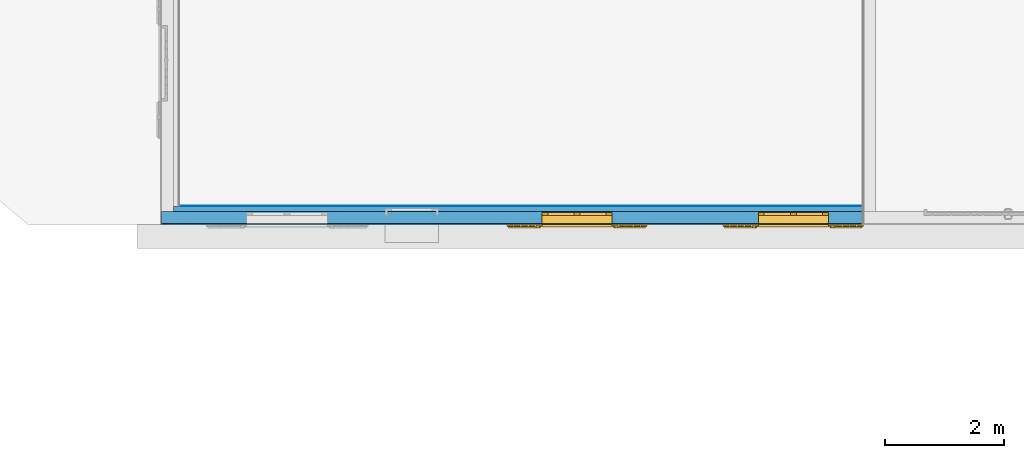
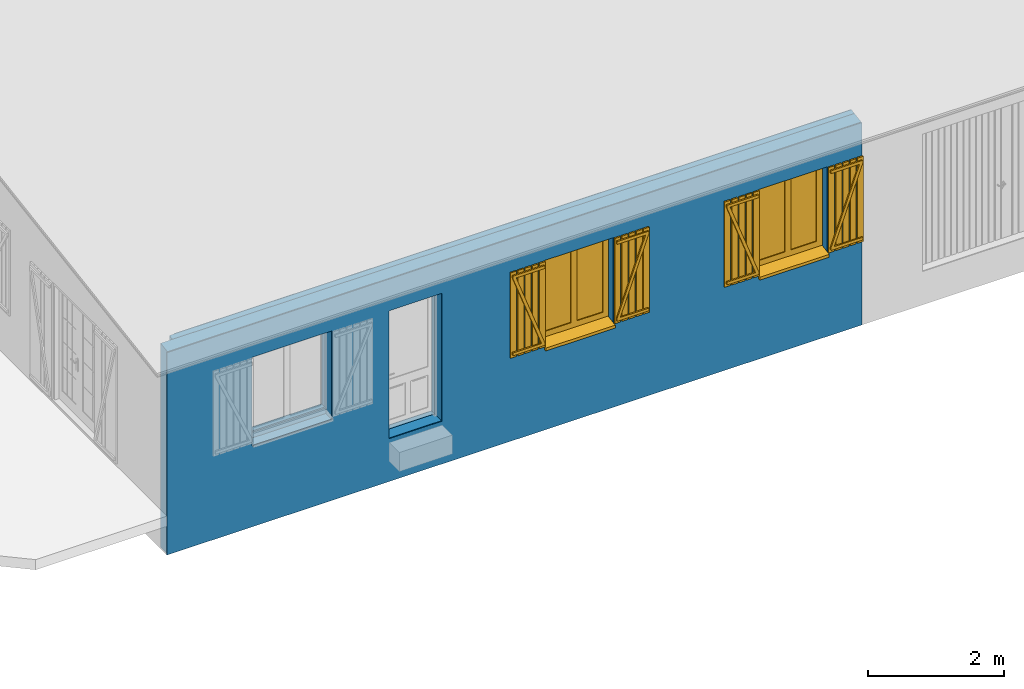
# One storey, part 4 of 12: 4 building element parts, 2 windows, 4 openings, 1 element without a shape of its own.
"""IFC2X3 building model written with IfcOpenShell, lengths in metres."""

import ifcopenshell
import ifcopenshell.guid

model = None  # the IFC model being written
_history = None  # IfcOwnerHistory: only IFC2X3 demands one
_inside = {}  # id of a spatial element -> (the spatial element, [elements in it])
_under = {}  # id of a project, library or spatial element -> (it, [spatial elements below it])
_declared = {}  # id of a project -> (the project, [libraries it declares])
_typed = {}  # id of a type object -> (the type object, [elements of that type])
_made_of = {}  # id of a material, layer set ... -> (it, [elements and type objects made of it])


def new_model(schema):
    """Start an empty IFC model of exactly this schema.

    Asked for "IFC4X3", IfcOpenShell would pick the latest addendum, in which some entities
    have other attributes; the version numbers below select the first issue.
    IFC2X3 requires an IfcOwnerHistory on every rooted entity: one is made here for all.
    """
    global model, _history
    if schema == "IFC4X3":
        model = ifcopenshell.file(schema_version=(4, 3, 0, 0))
    else:
        model = ifcopenshell.file(schema=schema)
    _inside.clear()
    _under.clear()
    _declared.clear()
    _typed.clear()
    _made_of.clear()
    _history = None
    if model.schema == "IFC2X3":
        org = make("IfcOrganization", Name="unknown")
        user = make(
            "IfcPersonAndOrganization",
            ThePerson=make("IfcPerson", FamilyName="unknown"),
            TheOrganization=org,
        )
        app = make(
            "IfcApplication",
            ApplicationDeveloper=org,
            Version="unknown",
            ApplicationFullName="unknown",
            ApplicationIdentifier="unknown",
        )
        _history = make(
            "IfcOwnerHistory",
            OwningUser=user,
            OwningApplication=app,
            ChangeAction="ADDED",
            CreationDate=0,
        )
    return model


def make(cls, **values):
    """One entity of the class cls with the attributes given. An attribute that is None is left unset."""
    return model.create_entity(
        cls, **{name: value for name, value in values.items() if value is not None}
    )


def entity(cls, *values):
    """Any entity or typed value of the class cls, its attributes in the order of the schema. None: left unset."""
    e = model.create_entity(cls)
    for i, value in enumerate(values):
        if value is not None:
            e[i] = value
    return e


def rooted(cls, **values):
    """An entity with a GlobalId (a new one), such as an element, a storey or a relation."""
    return make(cls, GlobalId=ifcopenshell.guid.new(), OwnerHistory=_history, **values)


def si_unit(unit_type, name, prefix=None):
    """IfcSIUnit, for example si_unit("LENGTHUNIT", "METRE", prefix="MILLI")."""
    return make("IfcSIUnit", UnitType=unit_type, Prefix=prefix, Name=name)


def converted_unit(unit_type, name, factor, base, dimensions=None, offset=None):
    """IfcConversionBasedUnit, such as the inch: factor (a typed value) times the base unit."""
    return make(
        "IfcConversionBasedUnit"
        if offset is None
        else "IfcConversionBasedUnitWithOffset",
        ConversionOffset=offset,
        Dimensions=None
        if dimensions is None
        else entity("IfcDimensionalExponents", *dimensions),
        UnitType=unit_type,
        Name=name,
        ConversionFactor=make(
            "IfcMeasureWithUnit", ValueComponent=factor, UnitComponent=base
        ),
    )


def derived_unit(unit_type, elements):
    """IfcDerivedUnit: a product of units, each with its exponent."""
    return make(
        "IfcDerivedUnit",
        Elements=[
            make("IfcDerivedUnitElement", Unit=unit, Exponent=power)
            for unit, power in elements
        ],
        UnitType=unit_type,
    )


def money_unit(currency):
    """IfcMonetaryUnit."""
    return make("IfcMonetaryUnit", Currency=currency)


def assignment(units):
    """IfcUnitAssignment: the units of a project."""
    return None if units is None else make("IfcUnitAssignment", Units=units)


def point(xyz):
    """IfcCartesianPoint."""
    return None if xyz is None else make("IfcCartesianPoint", Coordinates=xyz)


def direction(xyz):
    """IfcDirection."""
    return None if xyz is None else make("IfcDirection", DirectionRatios=xyz)


def frame(location, z_axis=None, x_axis=None):
    """IfcAxis2Placement3D, a coordinate frame: its origin and axes. An axis left out is left unset."""
    return make(
        "IfcAxis2Placement3D",
        Location=point(location),
        Axis=direction(z_axis),
        RefDirection=direction(x_axis),
    )


def frame_2d(location, x_axis=None):
    """IfcAxis2Placement2D, a coordinate frame in the plane: its origin and x axis."""
    return make(
        "IfcAxis2Placement2D", Location=point(location), RefDirection=direction(x_axis)
    )


def origin_with_axes():
    """The frame at (0, 0, 0) with the z axis (0, 0, 1) and the x axis (1, 0, 0) written out."""
    return frame((0.0, 0.0, 0.0), z_axis=(0.0, 0.0, 1.0), x_axis=(1.0, 0.0, 0.0))


def origin_2d_with_axis():
    """The frame at (0, 0) in the plane with the x axis (1, 0) written out."""
    return frame_2d((0.0, 0.0), x_axis=(1.0, 0.0))


def place(relative_to, where):
    """IfcLocalPlacement: puts the frame where relative to a parent placement (None: the world)."""
    return make(
        "IfcLocalPlacement", PlacementRelTo=relative_to, RelativePlacement=where
    )


def context(
    kind, dimensions, precision=None, world=None, true_north=None, identifier=None
):
    """IfcGeometricRepresentationContext, for example the 3D "Model" context."""
    return make(
        "IfcGeometricRepresentationContext",
        ContextIdentifier=identifier,
        ContextType=kind,
        CoordinateSpaceDimension=dimensions,
        Precision=precision,
        WorldCoordinateSystem=world,
        TrueNorth=true_north,
    )


def subcontext(parent, identifier, kind, view, scale=None):
    """IfcGeometricRepresentationSubContext, for example "Body" below "Model"."""
    return make(
        "IfcGeometricRepresentationSubContext",
        ContextIdentifier=identifier,
        ContextType=kind,
        ParentContext=parent,
        TargetScale=scale,
        TargetView=view,
    )


def project(units=None, contexts=None):
    """IfcProject with its units and contexts."""
    return rooted(
        "IfcProject",
        Name="project",
        RepresentationContexts=contexts,
        UnitsInContext=assignment(units),
    )


def spatial(cls, under=None, at=None, **own):
    """A site, building, storey or space (cls), placed at a placement, below another one or the project."""
    s = rooted(cls, ObjectPlacement=at, **own)
    if under is not None:
        _under.setdefault(under.id(), (under, []))[1].append(s)
    return s


def polyline(points):
    """IfcPolyline through the points."""
    return make("IfcPolyline", Points=[point(p) for p in points])


def profile(cls, at=None, kind="AREA", **sizes):
    """A parametric profile (cls). Its sizes go by their IFC names, for example OverallWidth=200.0."""
    return make(cls, ProfileType=kind, Position=at, **sizes)


def rectangle(**sizes):
    """IfcRectangleProfileDef."""
    return profile("IfcRectangleProfileDef", **sizes)


def outline(outer, holes=None, kind="AREA"):
    """IfcArbitraryClosedProfileDef: a profile drawn as a closed curve; with holes, ...WithVoids."""
    if holes is None:
        return make("IfcArbitraryClosedProfileDef", ProfileType=kind, OuterCurve=outer)
    return make(
        "IfcArbitraryProfileDefWithVoids",
        ProfileType=kind,
        OuterCurve=outer,
        InnerCurves=holes,
    )


def extrude(swept, where, along, depth):
    """IfcExtrudedAreaSolid: the profile swept, set in the frame where, extruded along a direction by depth."""
    return make(
        "IfcExtrudedAreaSolid",
        SweptArea=swept,
        Position=where,
        ExtrudedDirection=direction(along),
        Depth=depth,
    )


def boolean(op, a, b):
    """IfcBooleanResult of two solids."""
    return make("IfcBooleanResult", Operator=op, FirstOperand=a, SecondOperand=b)


def faces_of(points, faces, orient=None, outer=None):
    """IfcFace entities. A face is a list of loops; a loop is a list of indices into points, from 0.

    orient and outer hold one flag for each loop. By default every Orientation is true, the
    first loop of a face is its IfcFaceOuterBound and the others are IfcFaceBound.
    """
    made = []
    for i, loops in enumerate(faces):
        bounds = []
        for j, loop in enumerate(loops):
            is_outer = j == 0 if outer is None else outer[i][j]
            bounds.append(
                make(
                    "IfcFaceOuterBound" if is_outer else "IfcFaceBound",
                    Bound=make("IfcPolyLoop", Polygon=[points[k] for k in loop]),
                    Orientation=True if orient is None else orient[i][j],
                )
            )
        made.append(make("IfcFace", Bounds=bounds))
    return made


def open_shell(faces, orient=None, outer=None):
    """The faces of one IfcOpenShell. surface_model builds it on its shared points."""
    return ("IfcOpenShell", faces, orient, outer)


def faceted_brep(points, faces, orient=None, outer=None, voids=None):
    """IfcFacetedBrep: a solid bounded by flat faces; with voids (closed shells), ...WithVoids."""
    shared = [point(p) for p in points]
    hull = make("IfcClosedShell", CfsFaces=faces_of(shared, faces, orient, outer))
    if voids is None:
        return make("IfcFacetedBrep", Outer=hull)
    return make(
        "IfcFacetedBrepWithVoids",
        Outer=hull,
        Voids=[
            make(cls, CfsFaces=faces_of(shared, fs, o, b)) for cls, fs, o, b in voids
        ],
    )


def surface_model(cls, points, shells):
    """IfcFaceBasedSurfaceModel or IfcShellBasedSurfaceModel (cls): surfaces that need not close."""
    shared = [point(p) for p in points]
    made = [make(c, CfsFaces=faces_of(shared, fs, o, b)) for c, fs, o, b in shells]
    if cls == "IfcFaceBasedSurfaceModel":
        return make(cls, FbsmFaces=made)
    return make(cls, SbsmBoundary=made)


def shape(context_of_items, identifier, shape_type, items):
    """IfcShapeRepresentation: the items that make up one representation, for example the "Body"."""
    return make(
        "IfcShapeRepresentation",
        ContextOfItems=context_of_items,
        RepresentationIdentifier=identifier,
        RepresentationType=shape_type,
        Items=items,
    )


def source(mapping_origin, context_of_items, identifier, shape_type, items):
    """IfcRepresentationMap: a shape defined once, which mapped items show again and again."""
    return make(
        "IfcRepresentationMap",
        MappingOrigin=mapping_origin,
        MappedRepresentation=shape(context_of_items, identifier, shape_type, items),
    )


def transform(
    local_origin,
    x_axis=None,
    y_axis=None,
    z_axis=None,
    scale=None,
    scale2=None,
    scale3=None,
    uniform=True,
):
    """IfcCartesianTransformationOperator3D, or its non-uniform kind. x_axis, y_axis, z_axis: its Axis1, 2, 3."""
    if uniform:
        return make(
            "IfcCartesianTransformationOperator3D",
            Axis1=direction(x_axis),
            Axis2=direction(y_axis),
            LocalOrigin=point(local_origin),
            Scale=scale,
            Axis3=direction(z_axis),
        )
    return make(
        "IfcCartesianTransformationOperator3DnonUniform",
        Axis1=direction(x_axis),
        Axis2=direction(y_axis),
        LocalOrigin=point(local_origin),
        Scale=scale,
        Axis3=direction(z_axis),
        Scale2=scale2,
        Scale3=scale3,
    )


def mapped(mapping_source, mapping_target):
    """IfcMappedItem: shows the shape of a source again, moved by a transform."""
    return make(
        "IfcMappedItem", MappingSource=mapping_source, MappingTarget=mapping_target
    )


def material(Name=None, Category=None):
    """IfcMaterial."""
    return make("IfcMaterial", Name=Name, Category=Category)


def made_of(thing, what):
    """Note that an element or type object is made of a material, layer set ...; save() writes the relation."""
    if what is not None:
        _made_of.setdefault(what.id(), (what, []))[1].append(thing)
    return thing


def type_object(cls, material=None, **own):
    """A type object (cls), such as IfcWallType, which elements share."""
    return made_of(rooted(cls, **own), material)


def element(
    cls,
    number,
    at=None,
    inside=None,
    cuts=None,
    type_object=None,
    material=None,
    context=None,
    identifier="Body",
    shape_type=None,
    held_by="IfcProductDefinitionShape",
    body=None,
    shapes=None,
    **own,
):
    """One element of the class cls, such as IfcWall. Its Tag is "e" and its number.

    at: its placement. inside: the storey or other place that contains it. cuts: it is an
    opening in that element (IfcRelVoidsElement). A single representation is given by context,
    identifier, shape_type and body (its items); several are given by shapes. held_by: the class
    of the entity that holds the representations. save() writes the other relations.
    """
    e = rooted(cls, Tag="e%d" % number, ObjectPlacement=at, **own)
    if body is not None:
        shapes = [shape(context, identifier, shape_type, body)]
    if shapes is not None:
        e.Representation = make(held_by, Representations=shapes)
    if inside is not None:
        _inside.setdefault(inside.id(), (inside, []))[1].append(e)
    if cuts is not None:
        rooted(
            "IfcRelVoidsElement", RelatingBuildingElement=cuts, RelatedOpeningElement=e
        )
    if type_object is not None:
        _typed.setdefault(type_object.id(), (type_object, []))[1].append(e)
    return made_of(e, material)


def fill(opening, filler):
    """IfcRelFillsElement: the door or window that sits in an opening."""
    return rooted(
        "IfcRelFillsElement",
        RelatingOpeningElement=opening,
        RelatedBuildingElement=filler,
    )


def aggregate(whole, parts):
    """IfcRelAggregates: a whole, such as a stair, and the parts it consists of."""
    return rooted("IfcRelAggregates", RelatingObject=whole, RelatedObjects=parts)


def save(model, path):
    """Write the relations noted so far, then the file.

    IfcRelAggregates (storeys below a building ...), IfcRelContainedInSpatialStructure (elements
    in a storey), IfcRelDefinesByType, IfcRelAssociatesMaterial and IfcRelDeclares: one each for
    every whole, place, type object, material and project.
    """
    for whole, parts in _under.values():
        aggregate(whole, parts)
    for where, things in _inside.values():
        rooted(
            "IfcRelContainedInSpatialStructure",
            RelatedElements=things,
            RelatingStructure=where,
        )
    for kind, things in _typed.values():
        rooted("IfcRelDefinesByType", RelatedObjects=things, RelatingType=kind)
    for what, things in _made_of.values():
        rooted("IfcRelAssociatesMaterial", RelatedObjects=things, RelatingMaterial=what)
    for by, libraries in _declared.values():
        rooted("IfcRelDeclares", RelatingContext=by, RelatedDefinitions=libraries)
    model.write(path)


model = new_model("IFC2X3")

# Units and contexts
model_context = context("Model", 3, precision=1e-05, world=origin_with_axes(), true_north=direction((0.0, 1.0)))
body_context = subcontext(model_context, "Body", "Model", "MODEL_VIEW")
ifc_project = project(units=[si_unit("LENGTHUNIT", "METRE"), si_unit("AREAUNIT", "SQUARE_METRE"), si_unit("VOLUMEUNIT", "CUBIC_METRE"), converted_unit("PLANEANGLEUNIT", "DEGREE", entity("IfcPlaneAngleMeasure", 0.0174532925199), si_unit("PLANEANGLEUNIT", "RADIAN"), dimensions=[0, 0, 0, 0, 0, 0, 0]), si_unit("SOLIDANGLEUNIT", "STERADIAN"), money_unit("CHF"), converted_unit("TIMEUNIT", "Year", entity("IfcTimeMeasure", 31556926.0), si_unit("TIMEUNIT", "SECOND"), dimensions=[0, 0, 1, 0, 0, 0, 0]), si_unit("MASSUNIT", "GRAM", prefix="KILO"), si_unit("THERMODYNAMICTEMPERATUREUNIT", "DEGREE_CELSIUS"), si_unit("LUMINOUSINTENSITYUNIT", "LUMEN"), si_unit("ENERGYUNIT", "JOULE", prefix="MEGA"), derived_unit("THERMALCONDUCTANCEUNIT", [(si_unit("POWERUNIT", "WATT"), 1), (si_unit("LENGTHUNIT", "METRE"), -1), (si_unit("THERMODYNAMICTEMPERATUREUNIT", "KELVIN"), -1)]), derived_unit("SPECIFICHEATCAPACITYUNIT", [(si_unit("ENERGYUNIT", "JOULE"), 1), (si_unit("MASSUNIT", "GRAM", prefix="KILO"), -1), (si_unit("THERMODYNAMICTEMPERATUREUNIT", "KELVIN"), -1)]), derived_unit("MASSDENSITYUNIT", [(si_unit("MASSUNIT", "GRAM", prefix="KILO"), 1), (si_unit("VOLUMEUNIT", "CUBIC_METRE"), -1)])], contexts=[model_context])

# Site, building, storey
site_placement = place(None, origin_with_axes())
site = spatial("IfcSite", under=ifc_project, at=site_placement, Name="Site", CompositionType="ELEMENT")
building_placement = place(site_placement, origin_with_axes())
building = spatial("IfcBuilding", under=site, at=building_placement, Name="Bâtiment", CompositionType="ELEMENT")
storey_placement = place(building_placement, origin_with_axes())
storey = spatial("IfcBuildingStorey", under=building, at=storey_placement, Name="Rez-de-chaussée", CompositionType="ELEMENT", Elevation=0.0)

# Window
window_style = type_object("IfcWindowStyle", Name="Fenêtre horizontale à châssis multiples 24", ConstructionType="NOTDEFINED", OperationType="DOUBLE_PANEL_VERTICAL", ParameterTakesPrecedence=False, Sizeable=False)
shared_shape = source(origin_with_axes(), body_context, "Body", "SurfaceModel", [
    faceted_brep([(0.59, -0.015, 0.0), (-0.59, -0.015, 0.0), (-0.59, -0.025, 0.0), (0.59, -0.025, 0.0), (0.59, -0.015, -0.1), (-0.59, -0.015, -0.1), (-0.59, -0.245, -0.1), (-0.59, -0.245, -0.0487919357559), (-0.59, -0.025, -0.01), (0.59, -0.025, -0.01), (0.59, -0.245, -0.0487919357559), (0.59, -0.245, -0.1)], [[[0, 1, 2, 3]], [[4, 5, 1, 0]], [[1, 5, 6, 7, 8, 2]], [[3, 2, 8, 9]], [[0, 3, 9, 10, 11, 4]], [[11, 6, 5, 4]], [[10, 7, 6, 11]], [[9, 8, 7, 10]]]),
    faceted_brep([(0.59, -0.206, -0.0326204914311), (0.69, -0.206, -0.0326204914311), (0.69, -0.231, -0.0326204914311), (0.59, -0.231, -0.0326204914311), (0.59, -0.206, 1.5), (0.69, -0.206, 1.5), (0.69, -0.231, 1.5), (0.59, -0.231, 1.5)], [[[0, 1, 2, 3]], [[0, 4, 5, 1]], [[1, 5, 6, 2]], [[3, 2, 6, 7]], [[4, 0, 3, 7]], [[5, 4, 7, 6]]]),
    faceted_brep([(0.7125, -0.206, -0.0326204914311), (0.8125, -0.206, -0.0326204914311), (0.8125, -0.231, -0.0326204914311), (0.7125, -0.231, -0.0326204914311), (0.7125, -0.206, 1.5), (0.8125, -0.206, 1.5), (0.8125, -0.231, 1.5), (0.7125, -0.231, 1.5)], [[[0, 1, 2, 3]], [[0, 4, 5, 1]], [[1, 5, 6, 2]], [[3, 2, 6, 7]], [[4, 0, 3, 7]], [[5, 4, 7, 6]]]),
    faceted_brep([(0.835, -0.206, -0.0326204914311), (0.935, -0.206, -0.0326204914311), (0.935, -0.231, -0.0326204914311), (0.835, -0.231, -0.0326204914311), (0.835, -0.206, 1.5), (0.935, -0.206, 1.5), (0.935, -0.231, 1.5), (0.835, -0.231, 1.5)], [[[0, 1, 2, 3]], [[0, 4, 5, 1]], [[1, 5, 6, 2]], [[3, 2, 6, 7]], [[4, 0, 3, 7]], [[5, 4, 7, 6]]]),
    faceted_brep([(0.9575, -0.206, -0.0326204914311), (1.0575, -0.206, -0.0326204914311), (1.0575, -0.231, -0.0326204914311), (0.9575, -0.231, -0.0326204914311), (0.9575, -0.206, 1.5), (1.0575, -0.206, 1.5), (1.0575, -0.231, 1.5), (0.9575, -0.231, 1.5)], [[[0, 1, 2, 3]], [[0, 4, 5, 1]], [[1, 5, 6, 2]], [[3, 2, 6, 7]], [[4, 0, 3, 7]], [[5, 4, 7, 6]]]),
    faceted_brep([(1.08, -0.206, -0.0326204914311), (1.18, -0.206, -0.0326204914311), (1.18, -0.231, -0.0326204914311), (1.08, -0.231, -0.0326204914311), (1.08, -0.206, 1.5), (1.18, -0.206, 1.5), (1.18, -0.231, 1.5), (1.08, -0.231, 1.5)], [[[0, 1, 2, 3]], [[0, 4, 5, 1]], [[1, 5, 6, 2]], [[3, 2, 6, 7]], [[4, 0, 3, 7]], [[5, 4, 7, 6]]]),
    faceted_brep([(0.615, -0.231, 0.0173795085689), (1.155, -0.231, 0.0173795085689), (1.155, -0.256, 0.0173795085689), (0.615, -0.256, 0.0173795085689), (0.615, -0.231, 0.0673795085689), (1.155, -0.231, 0.0673795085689), (1.155, -0.256, 0.0673795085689), (0.615, -0.256, 0.0673795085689)], [[[0, 1, 2, 3]], [[0, 4, 5, 1]], [[1, 5, 6, 2]], [[3, 2, 6, 7]], [[4, 0, 3, 7]], [[5, 4, 7, 6]]]),
    faceted_brep([(0.615, -0.231, 1.45), (0.615, -0.231, 1.4), (0.615, -0.256, 1.4), (0.615, -0.256, 1.45), (1.155, -0.231, 1.45), (1.155, -0.231, 1.4), (1.155, -0.256, 1.4), (1.155, -0.256, 1.45)], [[[0, 1, 2, 3]], [[0, 4, 5, 1]], [[1, 5, 6, 2]], [[3, 2, 6, 7]], [[4, 0, 3, 7]], [[5, 4, 7, 6]]]),
    faceted_brep([(0.615, -0.231, 0.0673795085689), (0.668231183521, -0.231, 0.0673795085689), (0.668231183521, -0.256, 0.0673795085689), (0.615, -0.256, 0.0673795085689), (1.10176881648, -0.231, 1.4), (1.155, -0.231, 1.4), (1.155, -0.256, 1.4), (1.10176881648, -0.256, 1.4)], [[[0, 1, 2, 3]], [[0, 4, 5, 1]], [[1, 5, 6, 2]], [[3, 2, 6, 7]], [[4, 0, 3, 7]], [[5, 4, 7, 6]]]),
    faceted_brep([(-0.59, -0.206, -0.0326204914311), (-0.59, -0.231, -0.0326204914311), (-0.69, -0.231, -0.0326204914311), (-0.69, -0.206, -0.0326204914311), (-0.59, -0.206, 1.5), (-0.59, -0.231, 1.5), (-0.69, -0.231, 1.5), (-0.69, -0.206, 1.5)], [[[0, 1, 2, 3]], [[4, 5, 1, 0]], [[1, 5, 6, 2]], [[3, 2, 6, 7]], [[0, 3, 7, 4]], [[7, 6, 5, 4]]]),
    faceted_brep([(-0.7125, -0.206, -0.0326204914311), (-0.7125, -0.231, -0.0326204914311), (-0.8125, -0.231, -0.0326204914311), (-0.8125, -0.206, -0.0326204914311), (-0.7125, -0.206, 1.5), (-0.7125, -0.231, 1.5), (-0.8125, -0.231, 1.5), (-0.8125, -0.206, 1.5)], [[[0, 1, 2, 3]], [[4, 5, 1, 0]], [[1, 5, 6, 2]], [[3, 2, 6, 7]], [[0, 3, 7, 4]], [[7, 6, 5, 4]]]),
    faceted_brep([(-0.835, -0.206, -0.0326204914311), (-0.835, -0.231, -0.0326204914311), (-0.935, -0.231, -0.0326204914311), (-0.935, -0.206, -0.0326204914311), (-0.835, -0.206, 1.5), (-0.835, -0.231, 1.5), (-0.935, -0.231, 1.5), (-0.935, -0.206, 1.5)], [[[0, 1, 2, 3]], [[4, 5, 1, 0]], [[1, 5, 6, 2]], [[3, 2, 6, 7]], [[0, 3, 7, 4]], [[7, 6, 5, 4]]]),
    faceted_brep([(-0.9575, -0.206, -0.0326204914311), (-0.9575, -0.231, -0.0326204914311), (-1.0575, -0.231, -0.0326204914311), (-1.0575, -0.206, -0.0326204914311), (-0.9575, -0.206, 1.5), (-0.9575, -0.231, 1.5), (-1.0575, -0.231, 1.5), (-1.0575, -0.206, 1.5)], [[[0, 1, 2, 3]], [[4, 5, 1, 0]], [[1, 5, 6, 2]], [[3, 2, 6, 7]], [[0, 3, 7, 4]], [[7, 6, 5, 4]]]),
    faceted_brep([(-1.08, -0.206, -0.0326204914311), (-1.08, -0.231, -0.0326204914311), (-1.18, -0.231, -0.0326204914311), (-1.18, -0.206, -0.0326204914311), (-1.08, -0.206, 1.5), (-1.08, -0.231, 1.5), (-1.18, -0.231, 1.5), (-1.18, -0.206, 1.5)], [[[0, 1, 2, 3]], [[4, 5, 1, 0]], [[1, 5, 6, 2]], [[3, 2, 6, 7]], [[0, 3, 7, 4]], [[7, 6, 5, 4]]]),
    faceted_brep([(-0.615, -0.231, 0.0173795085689), (-0.615, -0.256, 0.0173795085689), (-1.155, -0.256, 0.0173795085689), (-1.155, -0.231, 0.0173795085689), (-0.615, -0.231, 0.0673795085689), (-0.615, -0.256, 0.0673795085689), (-1.155, -0.256, 0.0673795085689), (-1.155, -0.231, 0.0673795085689)], [[[0, 1, 2, 3]], [[4, 5, 1, 0]], [[1, 5, 6, 2]], [[3, 2, 6, 7]], [[0, 3, 7, 4]], [[7, 6, 5, 4]]]),
    faceted_brep([(-0.615, -0.231, 1.45), (-0.615, -0.256, 1.45), (-0.615, -0.256, 1.4), (-0.615, -0.231, 1.4), (-1.155, -0.231, 1.45), (-1.155, -0.256, 1.45), (-1.155, -0.256, 1.4), (-1.155, -0.231, 1.4)], [[[0, 1, 2, 3]], [[4, 5, 1, 0]], [[1, 5, 6, 2]], [[3, 2, 6, 7]], [[0, 3, 7, 4]], [[7, 6, 5, 4]]]),
    faceted_brep([(-0.615, -0.231, 0.0673795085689), (-0.615, -0.256, 0.0673795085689), (-0.668231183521, -0.256, 0.0673795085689), (-0.668231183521, -0.231, 0.0673795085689), (-1.10176881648, -0.231, 1.4), (-1.10176881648, -0.256, 1.4), (-1.155, -0.256, 1.4), (-1.155, -0.231, 1.4)], [[[0, 1, 2, 3]], [[4, 5, 1, 0]], [[1, 5, 6, 2]], [[3, 2, 6, 7]], [[0, 3, 7, 4]], [[7, 6, 5, 4]]]),
    faceted_brep([(0.49, -0.05, 1.4), (0.59, -0.05, 1.4), (0.59, 0.0, 1.4), (0.49, 0.0, 1.4), (0.49, -0.05, 0.1), (0.59, -0.05, 0.1), (0.59, 0.0, 0.1), (0.49, 0.0, 0.1)], [[[0, 1, 2, 3]], [[0, 4, 5, 1]], [[1, 5, 6, 2]], [[3, 2, 6, 7]], [[4, 0, 3, 7]], [[5, 4, 7, 6]]]),
    faceted_brep([(-0.49, -0.05, 0.1), (-0.59, -0.05, 0.1), (-0.59, 0.0, 0.1), (-0.49, 0.0, 0.1), (-0.49, -0.05, 1.4), (-0.59, -0.05, 1.4), (-0.59, 0.0, 1.4), (-0.49, 0.0, 1.4)], [[[0, 1, 2, 3]], [[0, 4, 5, 1]], [[1, 5, 6, 2]], [[3, 2, 6, 7]], [[4, 0, 3, 7]], [[5, 4, 7, 6]]]),
    faceted_brep([(-0.49, -0.05, 1.4), (-0.59, -0.05, 1.4), (-0.59, 0.0, 1.4), (-0.49, 0.0, 1.4), (-0.05, -0.05, 1.4), (0.05, -0.05, 1.4), (0.49, -0.05, 1.4), (0.59, -0.05, 1.4), (0.59, -0.05, 1.5), (-0.59, -0.05, 1.5), (-0.59, 0.0, 1.5), (0.59, 0.0, 1.5), (0.59, 0.0, 1.4), (0.49, 0.0, 1.4), (0.05, 0.0, 1.4), (-0.05, 0.0, 1.4)], [[[0, 1, 2, 3]], [[0, 4, 5, 6, 7, 8, 9, 1]], [[1, 9, 10, 2]], [[3, 2, 10, 11, 12, 13, 14, 15]], [[4, 0, 3, 15]], [[5, 4, 15, 14]], [[6, 5, 14, 13]], [[7, 6, 13, 12]], [[8, 7, 12, 11]], [[9, 8, 11, 10]]]),
    faceted_brep([(-0.05, -0.05, 0.1), (0.05, -0.05, 0.1), (0.05, 0.0, 0.1), (-0.05, 0.0, 0.1), (-0.49, -0.05, 0.1), (-0.59, -0.05, 0.1), (-0.59, -0.05, 0.0), (0.59, -0.05, 0.0), (0.59, -0.05, 0.1), (0.49, -0.05, 0.1), (0.49, 0.0, 0.1), (0.59, 0.0, 0.1), (0.59, 0.0, 0.0), (-0.59, 0.0, 0.0), (-0.59, 0.0, 0.1), (-0.49, 0.0, 0.1)], [[[0, 1, 2, 3]], [[0, 4, 5, 6, 7, 8, 9, 1]], [[1, 9, 10, 2]], [[3, 2, 10, 11, 12, 13, 14, 15]], [[4, 0, 3, 15]], [[5, 4, 15, 14]], [[6, 5, 14, 13]], [[7, 6, 13, 12]], [[8, 7, 12, 11]], [[9, 8, 11, 10]]]),
    faceted_brep([(-0.05, -0.05, 0.1), (-0.05, -0.05, 1.4), (-0.05, 0.0, 1.4), (-0.05, 0.0, 0.1), (0.05, -0.05, 0.1), (0.05, -0.05, 1.4), (0.05, 0.0, 1.4), (0.05, 0.0, 0.1)], [[[0, 1, 2, 3]], [[0, 4, 5, 1]], [[1, 5, 6, 2]], [[3, 2, 6, 7]], [[4, 0, 3, 7]], [[5, 4, 7, 6]]]),
    surface_model("IfcShellBasedSurfaceModel", [(0.49, -0.035, 0.1), (0.49, -0.035, 1.4), (0.05, -0.035, 1.4), (0.05, -0.035, 0.1)], [open_shell([[[0, 1, 2, 3]]])]),
    surface_model("IfcShellBasedSurfaceModel", [(0.49, -0.015, 0.1), (0.05, -0.015, 0.1), (0.05, -0.015, 1.4), (0.49, -0.015, 1.4)], [open_shell([[[0, 1, 2, 3]]])]),
    surface_model("IfcShellBasedSurfaceModel", [(-0.05, -0.035, 0.1), (-0.05, -0.035, 1.4), (-0.49, -0.035, 1.4), (-0.49, -0.035, 0.1)], [open_shell([[[0, 1, 2, 3]]])]),
    surface_model("IfcShellBasedSurfaceModel", [(-0.05, -0.015, 0.1), (-0.49, -0.015, 0.1), (-0.49, -0.015, 1.4), (-0.05, -0.015, 1.4)], [open_shell([[[0, 1, 2, 3]]])]),
])
wall_placement = place(storey_placement, frame((23.3871417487, 7.7379346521, -0.6), z_axis=(0.0, 0.0, 1.0), x_axis=(-1.0, 0.0, 0.0)))
opening_1_placement = place(wall_placement, frame((1.17, 0.0, 1.55), z_axis=(0.0, 0.0, 1.0), x_axis=(1.0, 0.0, 0.0)))
window_1_placement = place(opening_1_placement, frame((0.59, 0.0, 0.0), z_axis=(0.0, 0.0, 1.0), x_axis=(-1.0, 0.0, 0.0)))
window_1 = element("IfcWindow", 1, at=window_1_placement, inside=storey, type_object=window_style, Name="FENETRE-002", ObjectType="WINDOW", OverallHeight=1.5, OverallWidth=1.18, context=body_context, shape_type="MappedRepresentation", body=[
    mapped(shared_shape, transform((0.59, 0.2, 0.0))),
])

opening_2_placement = place(wall_placement, frame((4.81, 0.0, 1.55), z_axis=(0.0, 0.0, 1.0), x_axis=(1.0, 0.0, 0.0)))
window_2_placement = place(opening_2_placement, frame((0.59, 0.0, 0.0), z_axis=(0.0, 0.0, 1.0), x_axis=(-1.0, 0.0, 0.0)))
window_2 = element("IfcWindow", 2, at=window_2_placement, inside=storey, type_object=window_style, Name="FENETRE-002", ObjectType="WINDOW", OverallHeight=1.5, OverallWidth=1.18, context=body_context, shape_type="MappedRepresentation", body=[
    mapped(shared_shape, transform((0.59, 0.2, 0.0))),
])

# Wall, opening
wall_type = type_object("IfcWallType", Name="0.1 - Mur ext: revét ext + maçonnerie + doublage 10cm 315", PredefinedType="ELEMENTEDWALL")
wall = element("IfcWall", 3, at=wall_placement, inside=storey, type_object=wall_type, Name="MUR_EXT-005", ObjectType="ELEMENTEDWALL")
opening_1 = element("IfcOpeningElement", 4, at=opening_1_placement, cuts=wall, Name="FENETRE-002", context=body_context, shape_type="SweptSolid", body=[
    extrude(rectangle(XDim=1.18, YDim=1.5, at=origin_2d_with_axis()), frame((0.0, -0.15, 0.75), z_axis=(0.0, -1.0, 0.0), x_axis=(1.0, 0.0, 0.0)), (0.0, 0.0, 1.0), 0.48),
    extrude(rectangle(XDim=1.18, YDim=1.5, at=origin_2d_with_axis()), frame((0.0, -0.15, 0.75), z_axis=(0.0, 1.0, 0.0), x_axis=(1.0, 0.0, 0.0)), (0.0, 0.0, 1.0), 0.465),
    extrude(rectangle(XDim=1.18, YDim=0.1, at=origin_2d_with_axis()), frame((0.0, -0.185, -0.05), z_axis=(0.0, 1.0, 0.0), x_axis=(1.0, 0.0, 0.0)), (0.0, 0.0, 1.0), 0.35),
])

fill(opening_1, window_1)

# Opening
opening_2 = element("IfcOpeningElement", 5, at=opening_2_placement, cuts=wall, Name="FENETRE-002", context=body_context, shape_type="SweptSolid", body=[
    extrude(rectangle(XDim=1.18, YDim=1.5, at=origin_2d_with_axis()), frame((0.0, -0.15, 0.75), z_axis=(0.0, -1.0, 0.0), x_axis=(1.0, 0.0, 0.0)), (0.0, 0.0, 1.0), 0.48),
    extrude(rectangle(XDim=1.18, YDim=1.5, at=origin_2d_with_axis()), frame((0.0, -0.15, 0.75), z_axis=(0.0, 1.0, 0.0), x_axis=(1.0, 0.0, 0.0)), (0.0, 0.0, 1.0), 0.465),
    extrude(rectangle(XDim=1.18, YDim=0.1, at=origin_2d_with_axis()), frame((0.0, -0.185, -0.05), z_axis=(0.0, 1.0, 0.0), x_axis=(1.0, 0.0, 0.0)), (0.0, 0.0, 1.0), 0.35),
])

fill(opening_2, window_2)

opening_3_placement = place(wall_placement, frame((9.69, 0.0, 1.55), z_axis=(0.0, 0.0, 1.0), x_axis=(1.0, 0.0, 0.0)))
element("IfcOpeningElement", 6, at=opening_3_placement, cuts=wall, Name="FENETRE-002", context=body_context, shape_type="SweptSolid", body=[
    extrude(rectangle(XDim=1.36, YDim=1.5, at=origin_2d_with_axis()), frame((0.0, -0.15, 0.75), z_axis=(0.0, -1.0, 0.0), x_axis=(1.0, 0.0, 0.0)), (0.0, 0.0, 1.0), 0.48),
    extrude(rectangle(XDim=1.36, YDim=1.5, at=origin_2d_with_axis()), frame((0.0, -0.15, 0.75), z_axis=(0.0, 1.0, 0.0), x_axis=(1.0, 0.0, 0.0)), (0.0, 0.0, 1.0), 0.465),
    extrude(rectangle(XDim=1.36, YDim=0.1, at=origin_2d_with_axis()), frame((0.0, -0.185, -0.05), z_axis=(0.0, 1.0, 0.0), x_axis=(1.0, 0.0, 0.0)), (0.0, 0.0, 1.0), 0.35),
])

opening_4_placement = place(wall_placement, frame((7.59, 0.0, 0.77), z_axis=(0.0, 0.0, 1.0), x_axis=(1.0, 0.0, 0.0)))
element("IfcOpeningElement", 7, at=opening_4_placement, cuts=wall, Name="PORTE-003", context=body_context, shape_type="SweptSolid", body=[
    extrude(rectangle(XDim=0.9, YDim=2.3, at=origin_2d_with_axis()), frame((0.0, -0.15, 1.15), z_axis=(0.0, 1.0, 0.0), x_axis=(-1.0, 0.0, 0.0)), (0.0, 0.0, -1.0), 0.48),
    extrude(rectangle(XDim=0.9, YDim=2.3, at=origin_2d_with_axis()), frame((0.0, -0.15, 1.15), z_axis=(0.0, -1.0, 0.0), x_axis=(-1.0, 0.0, 0.0)), (0.0, 0.0, -1.0), 0.465),
])

# Building element part
ifc_material_1 = material(Name="Finition int - Plaque de plâtre")
building_element_part_1_placement = place(wall_placement, origin_with_axes())
building_element_part_1 = element("IfcBuildingElementPart", 8, at=building_element_part_1_placement, material=ifc_material_1, Name="Finition int - Plaque de plâtre", context=body_context, shape_type="CSG", body=[
    boolean("DIFFERENCE", boolean("DIFFERENCE", boolean("DIFFERENCE", boolean("DIFFERENCE", extrude(outline(polyline([(0.0, -0.315), (11.82, -0.315), (11.82, -0.305), (0.0, -0.305), (0.0, -0.315)])), origin_with_axes(), (0.0, 0.0, 1.0), 5.5967588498), faceted_brep([(0.0, -0.305, 3.6887999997), (0.0, -0.315, 3.6903999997), (0.0, -0.315, 5.5967588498), (0.0, -0.305, 5.5967588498), (11.515, -0.315, 3.6903999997), (11.515, -0.305, 3.6887999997), (11.515, -0.315, 0.0), (11.82, -0.315, 0.0), (11.82, -0.315, 5.5967588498), (11.82, -0.305, 5.5967588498), (11.82, -0.305, 0.0), (11.515, -0.305, 0.0)], [[[0, 1, 2, 3]], [[4, 1, 0, 5]], [[4, 6, 7, 8, 2, 1]], [[3, 2, 8, 9]], [[5, 0, 3, 9, 10, 11]], [[6, 4, 5, 11]], [[6, 11, 10, 7]], [[8, 7, 10, 9]]])), faceted_brep([(0.0, -0.215, 3.6743999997), (0.0, -0.305, 3.6887999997), (0.0, -0.305, 5.5967588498), (0.0, -0.215, 5.5967588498), (11.605, -0.215, 3.6743999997), (11.605, -0.305, 3.6887999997), (11.605, -0.305, 0.0), (11.82, -0.305, 0.0), (11.82, -0.305, 5.5967588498), (11.82, -0.215, 5.5967588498), (11.82, -0.215, 0.0), (11.605, -0.215, 0.0)], [[[0, 1, 2, 3]], [[1, 0, 4, 5]], [[5, 6, 7, 8, 2, 1]], [[3, 2, 8, 9]], [[4, 0, 3, 9, 10, 11]], [[6, 5, 4, 11]], [[6, 11, 10, 7]], [[8, 7, 10, 9]]])), faceted_brep([(0.0, -0.015, 3.6423999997), (0.0, -0.215, 3.6743999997), (0.0, -0.215, 5.5967588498), (0.0, -0.015, 5.5967588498), (11.805, -0.015, 3.6423999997), (11.805, -0.215, 3.6743999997), (11.805, -0.215, 0.0), (11.82, -0.215, 0.0), (11.82, -0.215, 5.5967588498), (11.82, -0.015, 5.5967588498), (11.82, -0.015, 0.0), (11.805, -0.015, 0.0)], [[[0, 1, 2, 3]], [[1, 0, 4, 5]], [[5, 6, 7, 8, 2, 1]], [[3, 2, 8, 9]], [[4, 0, 3, 9, 10, 11]], [[6, 5, 4, 11]], [[6, 11, 10, 7]], [[8, 7, 10, 9]]])), faceted_brep([(0.0, 0.0, 3.6399999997), (0.0, -0.015, 3.6423999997), (0.0, -0.015, 5.5967588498), (0.0, 0.0, 5.5967588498), (11.82, 0.0, 3.6399999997), (11.82, -0.015, 3.6423999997), (11.82, -0.015, 5.5967588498), (11.82, 0.0, 5.5967588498)], [[[0, 1, 2, 3]], [[1, 0, 4, 5]], [[5, 6, 2, 1]], [[3, 2, 6, 7]], [[4, 0, 3, 7]], [[5, 4, 7, 6]]])),
])

ifc_material_2 = material(Name="Isolation - Laine de verre")
building_element_part_2_placement = place(wall_placement, origin_with_axes())
building_element_part_2 = element("IfcBuildingElementPart", 9, at=building_element_part_2_placement, material=ifc_material_2, Name="Isolation - Laine de verre", context=body_context, shape_type="CSG", body=[
    boolean("DIFFERENCE", boolean("DIFFERENCE", boolean("DIFFERENCE", boolean("DIFFERENCE", extrude(outline(polyline([(0.0, -0.305), (11.82, -0.305), (11.82, -0.215), (0.0, -0.215), (0.0, -0.305)])), origin_with_axes(), (0.0, 0.0, 1.0), 5.5967588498), faceted_brep([(0.0, -0.305, 3.6887999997), (0.0, -0.315, 3.6903999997), (0.0, -0.315, 5.5967588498), (0.0, -0.305, 5.5967588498), (11.515, -0.315, 3.6903999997), (11.515, -0.305, 3.6887999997), (11.515, -0.315, 0.0), (11.82, -0.315, 0.0), (11.82, -0.315, 5.5967588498), (11.82, -0.305, 5.5967588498), (11.82, -0.305, 0.0), (11.515, -0.305, 0.0)], [[[0, 1, 2, 3]], [[4, 1, 0, 5]], [[4, 6, 7, 8, 2, 1]], [[3, 2, 8, 9]], [[5, 0, 3, 9, 10, 11]], [[6, 4, 5, 11]], [[6, 11, 10, 7]], [[8, 7, 10, 9]]])), faceted_brep([(0.0, -0.215, 3.6743999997), (0.0, -0.305, 3.6887999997), (0.0, -0.305, 5.5967588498), (0.0, -0.215, 5.5967588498), (11.605, -0.215, 3.6743999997), (11.605, -0.305, 3.6887999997), (11.605, -0.305, 0.0), (11.82, -0.305, 0.0), (11.82, -0.305, 5.5967588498), (11.82, -0.215, 5.5967588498), (11.82, -0.215, 0.0), (11.605, -0.215, 0.0)], [[[0, 1, 2, 3]], [[1, 0, 4, 5]], [[5, 6, 7, 8, 2, 1]], [[3, 2, 8, 9]], [[4, 0, 3, 9, 10, 11]], [[6, 5, 4, 11]], [[6, 11, 10, 7]], [[8, 7, 10, 9]]])), faceted_brep([(0.0, -0.015, 3.6423999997), (0.0, -0.215, 3.6743999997), (0.0, -0.215, 5.5967588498), (0.0, -0.015, 5.5967588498), (11.805, -0.015, 3.6423999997), (11.805, -0.215, 3.6743999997), (11.805, -0.215, 0.0), (11.82, -0.215, 0.0), (11.82, -0.215, 5.5967588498), (11.82, -0.015, 5.5967588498), (11.82, -0.015, 0.0), (11.805, -0.015, 0.0)], [[[0, 1, 2, 3]], [[1, 0, 4, 5]], [[5, 6, 7, 8, 2, 1]], [[3, 2, 8, 9]], [[4, 0, 3, 9, 10, 11]], [[6, 5, 4, 11]], [[6, 11, 10, 7]], [[8, 7, 10, 9]]])), faceted_brep([(0.0, 0.0, 3.6399999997), (0.0, -0.015, 3.6423999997), (0.0, -0.015, 5.5967588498), (0.0, 0.0, 5.5967588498), (11.82, 0.0, 3.6399999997), (11.82, -0.015, 3.6423999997), (11.82, -0.015, 5.5967588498), (11.82, 0.0, 5.5967588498)], [[[0, 1, 2, 3]], [[1, 0, 4, 5]], [[5, 6, 2, 1]], [[3, 2, 6, 7]], [[4, 0, 3, 7]], [[5, 4, 7, 6]]])),
])

ifc_material_3 = material(Name="Brique ciment (extérieur)")
building_element_part_3_placement = place(wall_placement, origin_with_axes())
building_element_part_3 = element("IfcBuildingElementPart", 10, at=building_element_part_3_placement, material=ifc_material_3, Name="Brique ciment (extérieur)", context=body_context, shape_type="CSG", body=[
    boolean("DIFFERENCE", boolean("DIFFERENCE", boolean("DIFFERENCE", boolean("DIFFERENCE", extrude(outline(polyline([(0.0, -0.215), (11.82, -0.215), (11.82, -0.015), (0.0, -0.015), (0.0, -0.215)])), origin_with_axes(), (0.0, 0.0, 1.0), 5.5967588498), faceted_brep([(0.0, -0.305, 3.6887999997), (0.0, -0.315, 3.6903999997), (0.0, -0.315, 5.5967588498), (0.0, -0.305, 5.5967588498), (11.515, -0.315, 3.6903999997), (11.515, -0.305, 3.6887999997), (11.515, -0.315, 0.0), (11.82, -0.315, 0.0), (11.82, -0.315, 5.5967588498), (11.82, -0.305, 5.5967588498), (11.82, -0.305, 0.0), (11.515, -0.305, 0.0)], [[[0, 1, 2, 3]], [[4, 1, 0, 5]], [[4, 6, 7, 8, 2, 1]], [[3, 2, 8, 9]], [[5, 0, 3, 9, 10, 11]], [[6, 4, 5, 11]], [[6, 11, 10, 7]], [[8, 7, 10, 9]]])), faceted_brep([(0.0, -0.215, 3.6743999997), (0.0, -0.305, 3.6887999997), (0.0, -0.305, 5.5967588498), (0.0, -0.215, 5.5967588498), (11.605, -0.215, 3.6743999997), (11.605, -0.305, 3.6887999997), (11.605, -0.305, 0.0), (11.82, -0.305, 0.0), (11.82, -0.305, 5.5967588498), (11.82, -0.215, 5.5967588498), (11.82, -0.215, 0.0), (11.605, -0.215, 0.0)], [[[0, 1, 2, 3]], [[1, 0, 4, 5]], [[5, 6, 7, 8, 2, 1]], [[3, 2, 8, 9]], [[4, 0, 3, 9, 10, 11]], [[6, 5, 4, 11]], [[6, 11, 10, 7]], [[8, 7, 10, 9]]])), faceted_brep([(0.0, -0.015, 3.6423999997), (0.0, -0.215, 3.6743999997), (0.0, -0.215, 5.5967588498), (0.0, -0.015, 5.5967588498), (11.805, -0.015, 3.6423999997), (11.805, -0.215, 3.6743999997), (11.805, -0.215, 0.0), (11.82, -0.215, 0.0), (11.82, -0.215, 5.5967588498), (11.82, -0.015, 5.5967588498), (11.82, -0.015, 0.0), (11.805, -0.015, 0.0)], [[[0, 1, 2, 3]], [[1, 0, 4, 5]], [[5, 6, 7, 8, 2, 1]], [[3, 2, 8, 9]], [[4, 0, 3, 9, 10, 11]], [[6, 5, 4, 11]], [[6, 11, 10, 7]], [[8, 7, 10, 9]]])), faceted_brep([(0.0, 0.0, 3.6399999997), (0.0, -0.015, 3.6423999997), (0.0, -0.015, 5.5967588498), (0.0, 0.0, 5.5967588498), (11.82, 0.0, 3.6399999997), (11.82, -0.015, 3.6423999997), (11.82, -0.015, 5.5967588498), (11.82, 0.0, 5.5967588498)], [[[0, 1, 2, 3]], [[1, 0, 4, 5]], [[5, 6, 2, 1]], [[3, 2, 6, 7]], [[4, 0, 3, 7]], [[5, 4, 7, 6]]])),
])

ifc_material_4 = material(Name="Finition ext - Crépis")
building_element_part_4_placement = place(wall_placement, origin_with_axes())
building_element_part_4 = element("IfcBuildingElementPart", 11, at=building_element_part_4_placement, material=ifc_material_4, Name="Finition ext - Crépis", context=body_context, shape_type="CSG", body=[
    boolean("DIFFERENCE", boolean("DIFFERENCE", boolean("DIFFERENCE", boolean("DIFFERENCE", extrude(outline(polyline([(0.0, -0.015), (11.82, -0.015), (11.82, 0.0), (0.0, 0.0), (0.0, -0.015)])), origin_with_axes(), (0.0, 0.0, 1.0), 5.5967588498), faceted_brep([(0.0, -0.305, 3.6887999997), (0.0, -0.315, 3.6903999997), (0.0, -0.315, 5.5967588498), (0.0, -0.305, 5.5967588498), (11.515, -0.315, 3.6903999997), (11.515, -0.305, 3.6887999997), (11.515, -0.315, 0.0), (11.82, -0.315, 0.0), (11.82, -0.315, 5.5967588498), (11.82, -0.305, 5.5967588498), (11.82, -0.305, 0.0), (11.515, -0.305, 0.0)], [[[0, 1, 2, 3]], [[4, 1, 0, 5]], [[4, 6, 7, 8, 2, 1]], [[3, 2, 8, 9]], [[5, 0, 3, 9, 10, 11]], [[6, 4, 5, 11]], [[6, 11, 10, 7]], [[8, 7, 10, 9]]])), faceted_brep([(0.0, -0.215, 3.6743999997), (0.0, -0.305, 3.6887999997), (0.0, -0.305, 5.5967588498), (0.0, -0.215, 5.5967588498), (11.605, -0.215, 3.6743999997), (11.605, -0.305, 3.6887999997), (11.605, -0.305, 0.0), (11.82, -0.305, 0.0), (11.82, -0.305, 5.5967588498), (11.82, -0.215, 5.5967588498), (11.82, -0.215, 0.0), (11.605, -0.215, 0.0)], [[[0, 1, 2, 3]], [[1, 0, 4, 5]], [[5, 6, 7, 8, 2, 1]], [[3, 2, 8, 9]], [[4, 0, 3, 9, 10, 11]], [[6, 5, 4, 11]], [[6, 11, 10, 7]], [[8, 7, 10, 9]]])), faceted_brep([(0.0, -0.015, 3.6423999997), (0.0, -0.215, 3.6743999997), (0.0, -0.215, 5.5967588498), (0.0, -0.015, 5.5967588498), (11.805, -0.015, 3.6423999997), (11.805, -0.215, 3.6743999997), (11.805, -0.215, 0.0), (11.82, -0.215, 0.0), (11.82, -0.215, 5.5967588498), (11.82, -0.015, 5.5967588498), (11.82, -0.015, 0.0), (11.805, -0.015, 0.0)], [[[0, 1, 2, 3]], [[1, 0, 4, 5]], [[5, 6, 7, 8, 2, 1]], [[3, 2, 8, 9]], [[4, 0, 3, 9, 10, 11]], [[6, 5, 4, 11]], [[6, 11, 10, 7]], [[8, 7, 10, 9]]])), faceted_brep([(0.0, 0.0, 3.6399999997), (0.0, -0.015, 3.6423999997), (0.0, -0.015, 5.5967588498), (0.0, 0.0, 5.5967588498), (11.82, 0.0, 3.6399999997), (11.82, -0.015, 3.6423999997), (11.82, -0.015, 5.5967588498), (11.82, 0.0, 5.5967588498)], [[[0, 1, 2, 3]], [[1, 0, 4, 5]], [[5, 6, 2, 1]], [[3, 2, 6, 7]], [[4, 0, 3, 7]], [[5, 4, 7, 6]]])),
])

aggregate(wall, [building_element_part_1, building_element_part_2, building_element_part_3, building_element_part_4])

save(model, "model.ifc")
